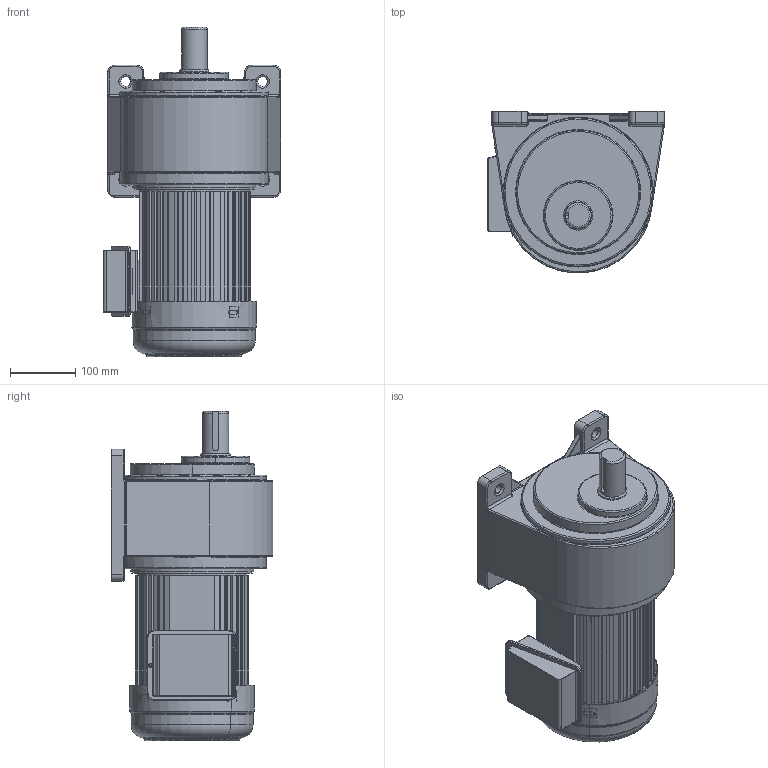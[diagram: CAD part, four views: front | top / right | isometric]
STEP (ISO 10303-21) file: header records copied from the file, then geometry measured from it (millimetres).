
FILE_DESCRIPTION(('HOOPS Exchange Step'),'2;1');
FILE_NAME('D:/ModelConvertServices/Model.004/TZT.New3D004/output/feea743d-ced0-44e3-ac02-909cbf725787/ZH1500-C(Z)-40K-100K(110K-150K)(40轴）.step','2026-07-28T22:57:32+08:00',('SYSTEM'),('Unknown organisation'),'HOOPS Exchange 2024.3','HOOPS Exchange','Unknown authorisation');
FILE_SCHEMA( ('AP203_CONFIGURATION_CONTROLLED_3D_DESIGN_OF_MECHANICAL_PARTS_AND_ASSEMBLIES_MIM_LF') );
Length unit declared in the file: millimetre
Products named in the file (1): AdmiE513rs6b
Bounding box: 271.59 x 247.6 x 505 mm (x, y, z)
Volume: 12176396.3 mm3; surface area: 837917 mm2
Topology: 1 solids, 3 shells, 1605 faces, 4442 edges, 2858 vertices
Faces by surface type: plane 877, cylinder 516, torus 114, bspline 52, cone 30, sphere 16
Full cylindrical faces by diameter (mm): 40 x1, 45 x1, 184.5 x1, 228 x2
Entity records: 56294 total; most frequent: CARTESIAN_POINT 14387, ORIENTED_EDGE 8856, DIRECTION 8508, EDGE_CURVE 4428, VECTOR 2982, LINE 2982, VERTEX_POINT 2862, AXIS2_PLACEMENT_3D 2763
